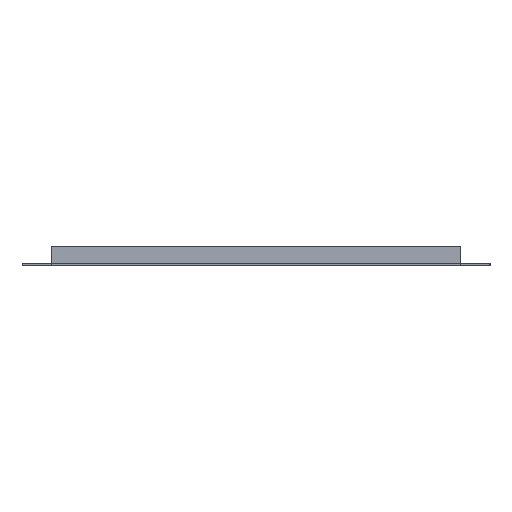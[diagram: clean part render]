
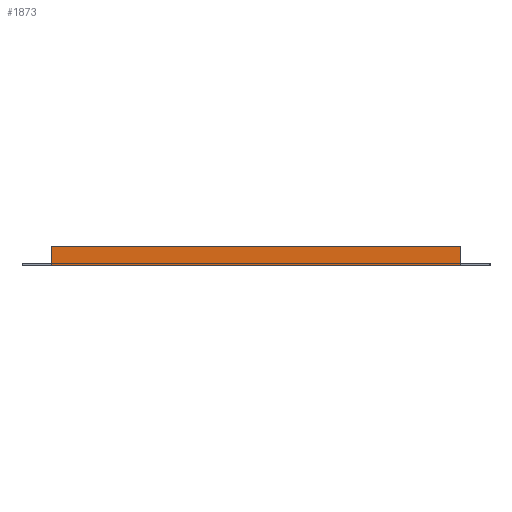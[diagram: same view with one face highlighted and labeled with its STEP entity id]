
A CAD part, left-side view. The second image highlights one B-rep face of the part: STEP entity #1873.
In plain terms, the highlighted planar face has unit normal (-1, 0, 0).
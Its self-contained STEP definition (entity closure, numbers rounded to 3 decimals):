
#1520 = VERTEX_POINT('',#1521);
#1521 = CARTESIAN_POINT('',(-825.,-210.,0.));
#1527 = EDGE_CURVE('',#1528,#1520,#1530,.T.);
#1528 = VERTEX_POINT('',#1529);
#1529 = CARTESIAN_POINT('',(-825.,210.,0.));
#1530 = LINE('',#1531,#1532);
#1531 = CARTESIAN_POINT('',(-825.,-210.,0.));
#1532 = VECTOR('',#1533,1.);
#1533 = DIRECTION('',(-0.,-1.,-0.));
#1752 = VERTEX_POINT('',#1753);
#1753 = CARTESIAN_POINT('',(-825.,210.,3.1));
#1768 = EDGE_CURVE('',#1752,#1528,#1769,.T.);
#1769 = LINE('',#1770,#1771);
#1770 = CARTESIAN_POINT('',(-825.,210.,3.1));
#1771 = VECTOR('',#1772,1.);
#1772 = DIRECTION('',(0.,0.,-1.));
#1792 = VERTEX_POINT('',#1793);
#1793 = CARTESIAN_POINT('',(-825.,-210.,3.1));
#1799 = EDGE_CURVE('',#1792,#1520,#1800,.T.);
#1800 = LINE('',#1801,#1802);
#1801 = CARTESIAN_POINT('',(-825.,-210.,2.5));
#1802 = VECTOR('',#1803,1.);
#1803 = DIRECTION('',(0.,-0.,-1.));
#1825 = VERTEX_POINT('',#1826);
#1826 = CARTESIAN_POINT('',(-825.,-210.,20.));
#1832 = EDGE_CURVE('',#1792,#1825,#1833,.T.);
#1833 = LINE('',#1834,#1835);
#1834 = CARTESIAN_POINT('',(-825.,-210.,20.));
#1835 = VECTOR('',#1836,1.);
#1836 = DIRECTION('',(0.,-0.,1.));
#1847 = EDGE_CURVE('',#1848,#1752,#1850,.T.);
#1848 = VERTEX_POINT('',#1849);
#1849 = CARTESIAN_POINT('',(-825.,210.,20.));
#1850 = LINE('',#1851,#1852);
#1851 = CARTESIAN_POINT('',(-825.,210.,2.5));
#1852 = VECTOR('',#1853,1.);
#1853 = DIRECTION('',(0.,-0.,-1.));
#1873 = ADVANCED_FACE('',(#1874),#1887,.F.);
#1874 = FACE_BOUND('',#1875,.T.);
#1875 = EDGE_LOOP('',(#1876,#1877,#1878,#1879,#1880,#1881));
#1876 = ORIENTED_EDGE('',*,*,#1847,.T.);
#1877 = ORIENTED_EDGE('',*,*,#1768,.T.);
#1878 = ORIENTED_EDGE('',*,*,#1527,.T.);
#1879 = ORIENTED_EDGE('',*,*,#1799,.F.);
#1880 = ORIENTED_EDGE('',*,*,#1832,.T.);
#1881 = ORIENTED_EDGE('',*,*,#1882,.T.);
#1882 = EDGE_CURVE('',#1825,#1848,#1883,.T.);
#1883 = LINE('',#1884,#1885);
#1884 = CARTESIAN_POINT('',(-825.,210.,20.));
#1885 = VECTOR('',#1886,1.);
#1886 = DIRECTION('',(-0.,1.,-0.));
#1887 = PLANE('',#1888);
#1888 = AXIS2_PLACEMENT_3D('',#1889,#1890,#1891);
#1889 = CARTESIAN_POINT('',(-825.,-210.,2.5));
#1890 = DIRECTION('',(1.,0.,0.));
#1891 = DIRECTION('',(0.,0.,-1.));
